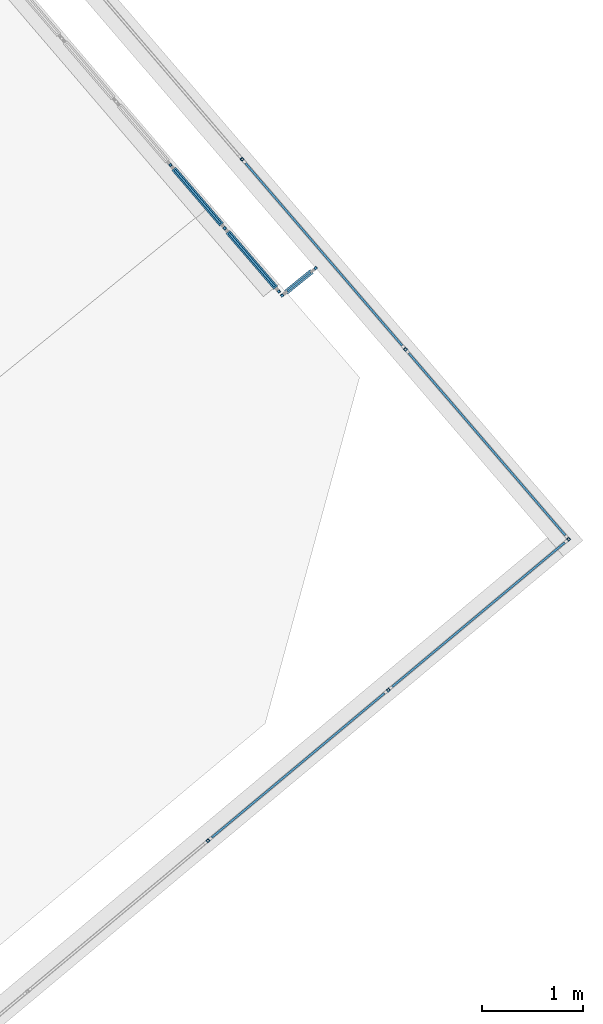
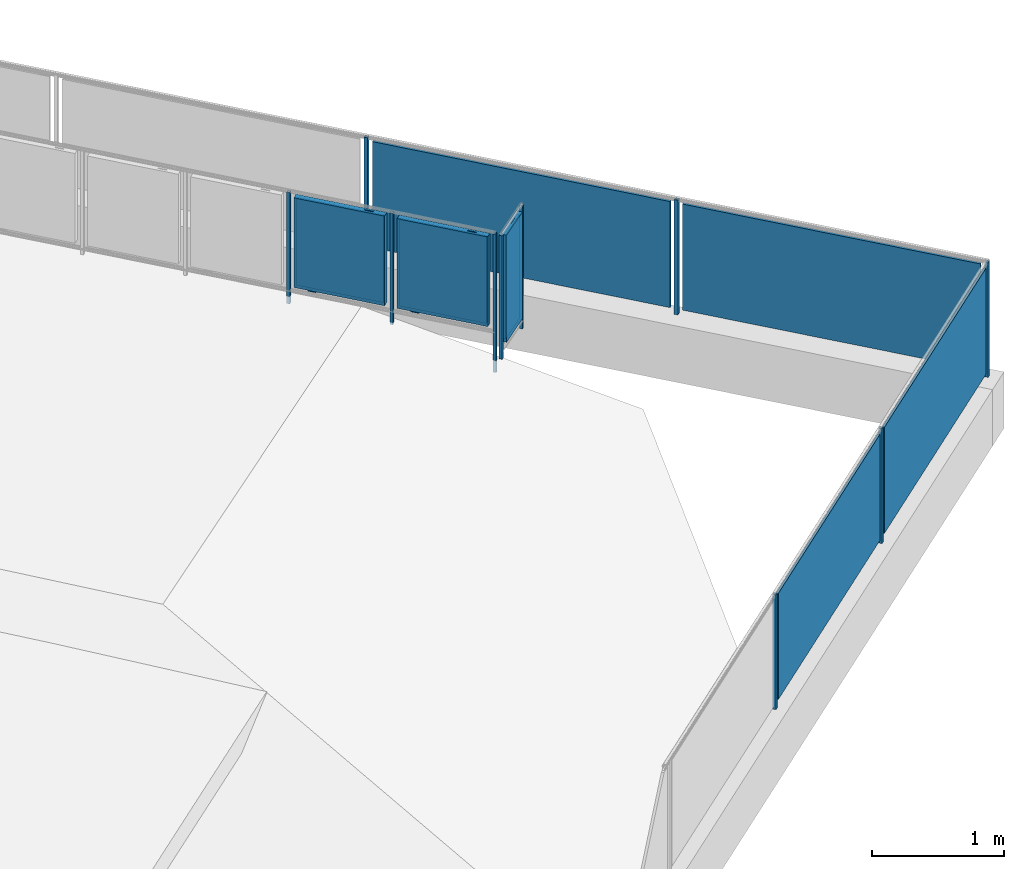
# One storey, part 50 of 67: 20 building element parts, 3 elements without a shape of their own.
"""IFC4 building model written with IfcOpenShell, lengths in metres."""

from ifc_helpers import new_model, entity, si_unit, converted_unit, derived_unit, direction, frame, origin_with_axes, place, context, subcontext, project, spatial, polygons, material, type_object, element, aggregate, save


model = new_model("IFC4")

# Units and contexts
model_context = context("Model", 3, precision=1e-05, world=origin_with_axes(), true_north=direction((0.0, 1.0)))
body_context = subcontext(model_context, "Body", "Model", "MODEL_VIEW")
ifc_project = project(units=[si_unit("LENGTHUNIT", "METRE"), si_unit("AREAUNIT", "SQUARE_METRE"), si_unit("VOLUMEUNIT", "CUBIC_METRE"), converted_unit("PLANEANGLEUNIT", "DEGREE", entity("IfcPlaneAngleMeasure", 0.0174532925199), si_unit("PLANEANGLEUNIT", "RADIAN"), dimensions=[0, 0, 0, 0, 0, 0, 0]), converted_unit("TIMEUNIT", "Year", entity("IfcTimeMeasure", 31556926.0), si_unit("TIMEUNIT", "SECOND"), dimensions=[0, 0, 1, 0, 0, 0, 0]), si_unit("MASSUNIT", "GRAM", prefix="KILO"), si_unit("THERMODYNAMICTEMPERATUREUNIT", "DEGREE_CELSIUS"), si_unit("LUMINOUSINTENSITYUNIT", "LUMEN"), si_unit("ENERGYUNIT", "JOULE", prefix="MEGA"), derived_unit("THERMALCONDUCTANCEUNIT", [(si_unit("POWERUNIT", "WATT"), 1), (si_unit("LENGTHUNIT", "METRE"), -1), (si_unit("THERMODYNAMICTEMPERATUREUNIT", "KELVIN"), -1)]), derived_unit("SPECIFICHEATCAPACITYUNIT", [(si_unit("ENERGYUNIT", "JOULE"), 1), (si_unit("MASSUNIT", "GRAM", prefix="KILO"), -1), (si_unit("THERMODYNAMICTEMPERATUREUNIT", "KELVIN"), -1)]), derived_unit("MASSDENSITYUNIT", [(si_unit("MASSUNIT", "GRAM", prefix="KILO"), 1), (si_unit("VOLUMEUNIT", "CUBIC_METRE"), -1)])], contexts=[model_context])

# Site, building, storey
site_placement = place(None, frame((-0.00153261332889, -0.00661245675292, 0.0), z_axis=(0.0, 0.0, 1.0), x_axis=(1.0, 0.0, 0.0)))
site = spatial("IfcSite", under=ifc_project, at=site_placement, Name="Site", CompositionType="ELEMENT")
building_placement = place(site_placement, origin_with_axes())
building = spatial("IfcBuilding", under=site, at=building_placement, Name="Building", CompositionType="ELEMENT")
storey_placement = place(building_placement, frame((0.0, 0.0, -0.22), z_axis=(0.0, 0.0, 1.0), x_axis=(1.0, 0.0, 0.0)))
storey = spatial("IfcBuildingStorey", under=building, at=storey_placement, Name="EG", CompositionType="ELEMENT", Elevation=-0.22)

# Railing, building element parts
railing_type = type_object("IfcRailingType", Name="Geländerart", PredefinedType="NOTDEFINED")
railing_1_placement = place(storey_placement, frame((-12.1608341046, 23.557810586, 0.523948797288), z_axis=(0.0, 0.0, 1.0), x_axis=(1.0, 0.0, 0.0)))
railing_1 = element("IfcRailing", 1, at=railing_1_placement, inside=storey, type_object=railing_type, Name="Geländer - 001", PredefinedType="NOTDEFINED")
ifc_material_1 = material(Name="Aluminium")
building_element_part_1_placement = place(railing_1_placement, origin_with_axes())
building_element_part_1 = element("IfcBuildingElementPart", 2, at=building_element_part_1_placement, material=ifc_material_1, Name="Aluminium", PredefinedType="NOTDEFINED", context=body_context, shape_type="Tessellation", body=[
    polygons([(33.6878191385, -5.45077765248, 0.0), (33.6685809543, -5.42775826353, 0.0), (33.6685809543, -5.42775826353, 1.06), (33.6878191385, -5.45077765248, 1.06), (33.6647997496, -5.4700158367, 0.0), (33.6455615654, -5.44699644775, 0.0), (33.6807762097, -5.45014745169, 0.0), (33.6679507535, -5.43480119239, 0.0), (33.6526044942, -5.44762664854, 0.0), (33.6654299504, -5.46297290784, 0.0), (33.6455615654, -5.44699644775, 1.06), (33.6647997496, -5.4700158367, 1.06), (33.6807762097, -5.45014745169, 1.06), (33.6654299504, -5.46297290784, 1.06), (33.6526044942, -5.44762664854, 1.06), (33.6679507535, -5.43480119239, 1.06)], [[[1, 2, 3, 4]], [[1, 5, 6, 2], [7, 8, 9, 10]], [[2, 6, 11, 3]], [[4, 3, 11, 12], [13, 14, 15, 16]], [[5, 1, 4, 12]], [[6, 5, 12, 11]], [[8, 7, 13, 16]], [[9, 8, 16, 15]], [[10, 9, 15, 14]], [[7, 10, 14, 13]]], closed=True),
])
building_element_part_2_placement = place(railing_1_placement, origin_with_axes())
building_element_part_2 = element("IfcBuildingElementPart", 3, at=building_element_part_2_placement, material=ifc_material_1, Name="Aluminium", PredefinedType="NOTDEFINED", context=body_context, shape_type="Tessellation", body=[
    polygons([(30.1059957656, -8.44424450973, 0.0), (30.0867575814, -8.42122512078, 0.0), (30.0867575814, -8.42122512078, 1.06), (30.1059957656, -8.44424450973, 1.06), (30.0829763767, -8.46348269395, 0.0), (30.0637381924, -8.440463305, 0.0), (30.0989528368, -8.44361430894, 0.0), (30.0861273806, -8.42826804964, 0.0), (30.0707811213, -8.44109350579, 0.0), (30.0836065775, -8.45643976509, 0.0), (30.0637381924, -8.440463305, 1.06), (30.0829763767, -8.46348269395, 1.06), (30.0989528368, -8.44361430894, 1.06), (30.0836065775, -8.45643976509, 1.06), (30.0707811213, -8.44109350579, 1.06), (30.0861273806, -8.42826804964, 1.06)], [[[1, 2, 3, 4]], [[1, 5, 6, 2], [7, 8, 9, 10]], [[2, 6, 11, 3]], [[4, 3, 11, 12], [13, 14, 15, 16]], [[5, 1, 4, 12]], [[6, 5, 12, 11]], [[8, 7, 13, 16]], [[9, 8, 16, 15]], [[10, 9, 15, 14]], [[7, 10, 14, 13]]], closed=True),
])
ifc_material_2 = material(Name="Zaun")
building_element_part_3_placement = place(railing_1_placement, origin_with_axes())
building_element_part_3 = element("IfcBuildingElementPart", 4, at=building_element_part_3_placement, material=ifc_material_2, Name="Zaun", PredefinedType="NOTDEFINED", context=body_context, shape_type="Tessellation", body=[
    polygons([(31.8310002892, -6.97001098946, 0.05), (30.1168198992, -8.40261713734, 0.05), (30.1168198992, -8.40261713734, 1.03), (31.8310002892, -6.97001098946, 1.03), (30.1296453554, -8.41796339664, 0.05), (31.8438257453, -6.98535724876, 0.05), (30.1296453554, -8.41796339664, 1.03), (31.8438257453, -6.98535724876, 1.03)], [[[1, 2, 3, 4]], [[5, 2, 1, 6]], [[7, 3, 2, 5]], [[4, 3, 7, 8]], [[1, 4, 8, 6]], [[7, 5, 6, 8]]], closed=True),
])
building_element_part_4_placement = place(railing_1_placement, origin_with_axes())
building_element_part_4 = element("IfcBuildingElementPart", 5, at=building_element_part_4_placement, material=ifc_material_1, Name="Aluminium", PredefinedType="NOTDEFINED", context=body_context, shape_type="Tessellation", body=[
    polygons([(31.8969074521, -6.9475110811, 0.0), (31.8776692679, -6.92449169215, 0.0), (31.8776692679, -6.92449169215, 1.06), (31.8969074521, -6.9475110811, 1.06), (31.8738880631, -6.96674926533, 0.0), (31.8546498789, -6.94372987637, 0.0), (31.8898645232, -6.94688088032, 0.0), (31.8770390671, -6.93153462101, 0.0), (31.8616928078, -6.94436007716, 0.0), (31.8745182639, -6.95970633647, 0.0), (31.8546498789, -6.94372987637, 1.06), (31.8738880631, -6.96674926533, 1.06), (31.8898645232, -6.94688088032, 1.06), (31.8745182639, -6.95970633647, 1.06), (31.8616928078, -6.94436007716, 1.06), (31.8770390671, -6.93153462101, 1.06)], [[[1, 2, 3, 4]], [[1, 5, 6, 2], [7, 8, 9, 10]], [[2, 6, 11, 3]], [[4, 3, 11, 12], [13, 14, 15, 16]], [[5, 1, 4, 12]], [[6, 5, 12, 11]], [[8, 7, 13, 16]], [[9, 8, 16, 15]], [[10, 9, 15, 14]], [[7, 10, 14, 13]]], closed=True),
])
building_element_part_5_placement = place(railing_1_placement, origin_with_axes())
building_element_part_5 = element("IfcBuildingElementPart", 6, at=building_element_part_5_placement, material=ifc_material_2, Name="Zaun", PredefinedType="NOTDEFINED", context=body_context, shape_type="Tessellation", body=[
    polygons([(33.6219119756, -5.47327756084, 0.05), (31.9077315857, -6.90588370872, 0.05), (31.9077315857, -6.90588370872, 1.03), (33.6219119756, -5.47327756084, 1.03), (31.9205570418, -6.92122996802, 0.05), (33.6347374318, -5.48862382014, 0.05), (31.9205570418, -6.92122996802, 1.03), (33.6347374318, -5.48862382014, 1.03)], [[[1, 2, 3, 4]], [[5, 2, 1, 6]], [[7, 3, 2, 5]], [[4, 3, 7, 8]], [[1, 4, 8, 6]], [[7, 5, 6, 8]]], closed=True),
])
building_element_part_6_placement = place(railing_1_placement, origin_with_axes())
building_element_part_6 = element("IfcBuildingElementPart", 7, at=building_element_part_6_placement, material=ifc_material_2, Name="Zaun", PredefinedType="NOTDEFINED", context=body_context, shape_type="Tessellation", body=[
    polygons([(32.0706981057, -3.60677800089, 0.05), (33.6265203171, -5.41748054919, 0.05), (33.6265203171, -5.41748054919, 1.03), (32.0706981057, -3.60677800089, 1.03), (33.6416897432, -5.40444642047, 0.05), (32.0858675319, -3.59374387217, 0.05), (33.6416897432, -5.40444642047, 1.03), (32.0858675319, -3.59374387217, 1.03)], [[[1, 2, 3, 4]], [[5, 2, 1, 6]], [[7, 3, 2, 5]], [[4, 3, 7, 8]], [[1, 4, 8, 6]], [[7, 5, 6, 8]]], closed=True),
])
building_element_part_7_placement = place(railing_1_placement, origin_with_axes())
building_element_part_7 = element("IfcBuildingElementPart", 8, at=building_element_part_7_placement, material=ifc_material_1, Name="Aluminium", PredefinedType="NOTDEFINED", context=body_context, shape_type="Tessellation", body=[
    polygons([(32.0472989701, -3.54118470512, 0.0), (32.0245448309, -3.5607358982, 0.0), (32.0245448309, -3.5607358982, 1.06), (32.0472989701, -3.54118470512, 1.06), (32.0668501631, -3.56393884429, 0.0), (32.044096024, -3.58349003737, 0.0), (32.0467651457, -3.54823559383, 0.0), (32.0315957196, -3.56126972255, 0.0), (32.0446298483, -3.57643914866, 0.0), (32.0597992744, -3.56340501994, 0.0), (32.044096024, -3.58349003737, 1.06), (32.0668501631, -3.56393884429, 1.06), (32.0467651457, -3.54823559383, 1.06), (32.0597992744, -3.56340501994, 1.06), (32.0446298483, -3.57643914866, 1.06), (32.0315957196, -3.56126972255, 1.06)], [[[1, 2, 3, 4]], [[1, 5, 6, 2], [7, 8, 9, 10]], [[2, 6, 11, 3]], [[4, 3, 11, 12], [13, 14, 15, 16]], [[5, 1, 4, 12]], [[6, 5, 12, 11]], [[8, 7, 13, 16]], [[9, 8, 16, 15]], [[10, 9, 15, 14]], [[7, 10, 14, 13]]], closed=True),
])
building_element_part_8_placement = place(railing_1_placement, origin_with_axes())
building_element_part_8 = element("IfcBuildingElementPart", 9, at=building_element_part_8_placement, material=ifc_material_2, Name="Zaun", PredefinedType="NOTDEFINED", context=body_context, shape_type="Tessellation", body=[
    polygons([(30.4497052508, -1.72022832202, 0.05), (32.0055274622, -3.53093087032, 0.05), (32.0055274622, -3.53093087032, 1.03), (30.4497052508, -1.72022832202, 1.03), (32.0206968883, -3.5178967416, 0.05), (30.4648746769, -1.7071941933, 0.05), (32.0206968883, -3.5178967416, 1.03), (30.4648746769, -1.7071941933, 1.03)], [[[1, 2, 3, 4]], [[5, 2, 1, 6]], [[7, 3, 2, 5]], [[4, 3, 7, 8]], [[1, 4, 8, 6]], [[7, 5, 6, 8]]], closed=True),
])
building_element_part_9_placement = place(railing_1_placement, origin_with_axes())
building_element_part_9 = element("IfcBuildingElementPart", 10, at=building_element_part_9_placement, material=ifc_material_1, Name="Aluminium", PredefinedType="NOTDEFINED", context=body_context, shape_type="Tessellation", body=[
    polygons([(30.4263061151, -1.65463502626, 0.0), (30.403551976, -1.67418621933, 0.0), (30.403551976, -1.67418621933, 1.06), (30.4263061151, -1.65463502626, 1.06), (30.4458573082, -1.67738916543, 0.0), (30.423103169, -1.6969403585, 0.0), (30.4257722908, -1.66168591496, 0.0), (30.4106028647, -1.67472004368, 0.0), (30.4236369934, -1.68988946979, 0.0), (30.4388064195, -1.67685534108, 0.0), (30.423103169, -1.6969403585, 1.06), (30.4458573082, -1.67738916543, 1.06), (30.4257722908, -1.66168591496, 1.06), (30.4388064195, -1.67685534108, 1.06), (30.4236369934, -1.68988946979, 1.06), (30.4106028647, -1.67472004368, 1.06)], [[[1, 2, 3, 4]], [[1, 5, 6, 2], [7, 8, 9, 10]], [[2, 6, 11, 3]], [[4, 3, 11, 12], [13, 14, 15, 16]], [[5, 1, 4, 12]], [[6, 5, 12, 11]], [[8, 7, 13, 16]], [[9, 8, 16, 15]], [[10, 9, 15, 14]], [[7, 10, 14, 13]]], closed=True),
])
aggregate(railing_1, [building_element_part_1, building_element_part_2, building_element_part_3, building_element_part_4, building_element_part_5, building_element_part_6, building_element_part_7, building_element_part_8, building_element_part_9])

railing_2_placement = place(storey_placement, frame((12.7838928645, 21.1193756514, 0.38), z_axis=(0.0, 0.0, 1.0), x_axis=(1.0, 0.0, 0.0)))
railing_2 = element("IfcRailing", 11, at=railing_2_placement, inside=storey, type_object=railing_type, Name="Geländer - 001", PredefinedType="NOTDEFINED")
building_element_part_10_placement = place(railing_2_placement, origin_with_axes())
building_element_part_10 = element("IfcBuildingElementPart", 12, at=building_element_part_10_placement, material=ifc_material_1, Name="Aluminium", PredefinedType="NOTDEFINED", context=body_context, shape_type="Tessellation", body=[
    polygons([(5.84400037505, -0.568070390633, -0.3), (5.86297616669, -0.551794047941, -0.3), (5.86297616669, -0.551794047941, 0.98), (5.84400037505, -0.568070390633, 0.98), (5.82772403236, -0.549094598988, -0.3), (5.846699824, -0.532818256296, -0.3), (5.846699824, -0.532818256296, 0.98), (5.82772403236, -0.549094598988, 0.98)], [[[1, 2, 3, 4]], [[1, 5, 6, 2]], [[2, 6, 7, 3]], [[4, 3, 7, 8]], [[5, 1, 4, 8]], [[6, 5, 8, 7]]], closed=True),
])
building_element_part_11_placement = place(railing_2_placement, origin_with_axes())
building_element_part_11 = element("IfcBuildingElementPart", 13, at=building_element_part_11_placement, material=ifc_material_1, Name="Aluminium", PredefinedType="NOTDEFINED", context=body_context, shape_type="Tessellation", body=[
    polygons([(4.76659655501, 0.688022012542, -0.05), (4.78557234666, 0.704298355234, -0.05), (4.78557234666, 0.704298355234, 0.98), (4.76659655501, 0.688022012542, 0.98), (4.75032021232, 0.706997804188, -0.05), (4.76929600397, 0.72327414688, -0.05), (4.76929600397, 0.72327414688, 0.98), (4.75032021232, 0.706997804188, 0.98)], [[[1, 2, 3, 4]], [[1, 5, 6, 2]], [[2, 6, 7, 3]], [[4, 3, 7, 8]], [[5, 1, 4, 8]], [[6, 5, 8, 7]]], closed=True),
])
ifc_material_3 = material(Name="Profilit")
building_element_part_12_placement = place(railing_2_placement, origin_with_axes())
building_element_part_12 = element("IfcBuildingElementPart", 14, at=building_element_part_12_placement, material=ifc_material_3, Name="Profilit", PredefinedType="NOTDEFINED", context=body_context, shape_type="Tessellation", body=[
    polygons([(5.27192001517, 0.133449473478, 0.135), (4.81785508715, 0.66282155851, 0.135), (4.81785508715, 0.66282155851, 0.935), (5.27192001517, 0.133449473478, 0.935), (4.80267445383, 0.649800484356, 0.135), (5.25673938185, 0.120428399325, 0.135), (4.80267445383, 0.649800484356, 0.935), (5.25673938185, 0.120428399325, 0.935)], [[[1, 2, 3, 4]], [[5, 2, 1, 6]], [[7, 3, 2, 5]], [[4, 3, 7, 8]], [[1, 4, 8, 6]], [[7, 5, 6, 8]]], closed=True),
])
building_element_part_13_placement = place(railing_2_placement, origin_with_axes())
building_element_part_13 = element("IfcBuildingElementPart", 15, at=building_element_part_13_placement, material=ifc_material_1, Name="Aluminium", PredefinedType="NOTDEFINED", context=body_context, shape_type="Tessellation", body=[
    polygons([(4.86750191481, 0.593420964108, 0.12), (4.91307567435, 0.5402887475, 0.12), (4.91307567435, 0.5402887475, 0.095), (4.86750191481, 0.593420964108, 0.095), (4.86370675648, 0.590165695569, 0.12), (4.90928051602, 0.537033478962, 0.12), (4.90928051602, 0.537033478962, 0.095), (4.86370675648, 0.590165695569, 0.095)], [[[1, 2, 3, 4]], [[5, 6, 2, 1]], [[2, 6, 7, 3]], [[4, 3, 7, 8]], [[1, 4, 8, 5]], [[8, 7, 6, 5]]], closed=True),
    polygons([(5.21088771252, 0.193084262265, 0.95), (5.16531395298, 0.246216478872, 0.95), (5.16531395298, 0.246216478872, 0.955), (5.21088771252, 0.193084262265, 0.955), (5.20709255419, 0.189828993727, 0.95), (5.16151879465, 0.242961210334, 0.95), (5.16151879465, 0.242961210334, 0.955), (5.20709255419, 0.189828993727, 0.955)], [[[1, 2, 3, 4]], [[5, 6, 2, 1]], [[2, 6, 7, 3]], [[4, 3, 7, 8]], [[1, 4, 8, 5]], [[8, 7, 6, 5]]], closed=True),
    polygons([(4.78152317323, 0.651420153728, 0.12), (4.81947475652, 0.683972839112, 0.12), (5.29307129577, 0.131829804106, 0.12), (5.25511971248, 0.0992771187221, 0.12), (4.79454424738, 0.636239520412, 0.14), (4.80592972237, 0.646005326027, 0.14), (4.80267445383, 0.649800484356, 0.135), (4.81785508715, 0.66282155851, 0.135), (4.82111035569, 0.659026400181, 0.14), (4.83249583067, 0.668792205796, 0.14), (5.28005022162, 0.147010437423, 0.14), (5.28005022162, 0.147010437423, 0.93), (4.83249583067, 0.668792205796, 0.93), (4.83249583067, 0.668792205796, 0.14), (4.81947475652, 0.683972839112, 0.12), (4.81947475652, 0.683972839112, 0.95), (5.29307129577, 0.131829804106, 0.95), (5.25511971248, 0.0992771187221, 0.95), (4.78152317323, 0.651420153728, 0.95), (4.78152317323, 0.651420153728, 0.12), (4.79454424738, 0.636239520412, 0.14), (4.79454424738, 0.636239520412, 0.93), (5.24209863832, 0.114457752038, 0.93), (5.24209863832, 0.114457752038, 0.14), (5.25348411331, 0.124223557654, 0.14), (5.25348411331, 0.124223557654, 0.93), (4.80592972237, 0.646005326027, 0.93), (4.80592972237, 0.646005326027, 0.14), (4.80267445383, 0.649800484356, 0.135), (4.80267445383, 0.649800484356, 0.935), (5.25673938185, 0.120428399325, 0.935), (5.25673938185, 0.120428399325, 0.135), (5.27192001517, 0.133449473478, 0.135), (5.27192001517, 0.133449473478, 0.935), (4.81785508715, 0.66282155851, 0.935), (4.81785508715, 0.66282155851, 0.135), (4.82111035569, 0.659026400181, 0.14), (4.82111035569, 0.659026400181, 0.93), (5.26866474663, 0.137244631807, 0.93), (5.26866474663, 0.137244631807, 0.14)], [[[1, 2, 3, 4]], [[1, 5, 6, 7, 8, 9, 10, 2]], [[2, 10, 11, 12, 13, 14, 15, 16, 17, 3]], [[4, 3, 17, 18]], [[5, 1, 4, 18, 19, 20, 21, 22, 23, 24]], [[6, 5, 24, 25]], [[7, 6, 25, 26, 27, 28, 29, 30, 31, 32]], [[8, 7, 32, 33]], [[9, 8, 33, 34, 35, 36, 37, 38, 39, 40]], [[10, 9, 40, 11]], [[11, 40, 39, 12]], [[12, 39, 38, 13]], [[13, 38, 37, 14]], [[20, 15, 14, 37, 36, 29, 28, 21]], [[19, 16, 15, 20]], [[18, 17, 16, 19]], [[27, 22, 21, 28]], [[26, 23, 22, 27]], [[25, 24, 23, 26]], [[35, 30, 29, 36]], [[34, 31, 30, 35]], [[33, 32, 31, 34]]], closed=True),
])
building_element_part_14_placement = place(railing_2_placement, origin_with_axes())
building_element_part_14 = element("IfcBuildingElementPart", 16, at=building_element_part_14_placement, material=ifc_material_1, Name="Aluminium", PredefinedType="NOTDEFINED", context=body_context, shape_type="Tessellation", body=[
    polygons([(5.30529846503, 0.0599758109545, -0.05), (5.32427425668, 0.0762521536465, -0.05), (5.32427425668, 0.0762521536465, 0.98), (5.30529846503, 0.0599758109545, 0.98), (5.28902212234, 0.0789516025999, -0.05), (5.30799791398, 0.095227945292, -0.05), (5.30799791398, 0.095227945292, 0.98), (5.28902212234, 0.0789516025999, 0.98)], [[[1, 2, 3, 4]], [[1, 5, 6, 2]], [[2, 6, 7, 3]], [[4, 3, 7, 8]], [[5, 1, 4, 8]], [[6, 5, 8, 7]]], closed=True),
])
building_element_part_15_placement = place(railing_2_placement, origin_with_axes())
building_element_part_15 = element("IfcBuildingElementPart", 17, at=building_element_part_15_placement, material=ifc_material_3, Name="Profilit", PredefinedType="NOTDEFINED", context=body_context, shape_type="Tessellation", body=[
    polygons([(5.81062192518, -0.49459672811, 0.135), (5.35655699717, 0.0347753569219, 0.135), (5.35655699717, 0.0347753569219, 0.935), (5.81062192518, -0.49459672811, 0.935), (5.34137636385, 0.0217542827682, 0.135), (5.79544129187, -0.507617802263, 0.135), (5.34137636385, 0.0217542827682, 0.935), (5.79544129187, -0.507617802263, 0.935)], [[[1, 2, 3, 4]], [[5, 2, 1, 6]], [[7, 3, 2, 5]], [[4, 3, 7, 8]], [[1, 4, 8, 6]], [[7, 5, 6, 8]]], closed=True),
])
building_element_part_16_placement = place(railing_2_placement, origin_with_axes())
building_element_part_16 = element("IfcBuildingElementPart", 18, at=building_element_part_16_placement, material=ifc_material_1, Name="Aluminium", PredefinedType="NOTDEFINED", context=body_context, shape_type="Tessellation", body=[
    polygons([(5.40620382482, -0.0346252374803, 0.12), (5.45177758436, -0.0877574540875, 0.12), (5.45177758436, -0.0877574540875, 0.095), (5.40620382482, -0.0346252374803, 0.095), (5.4024086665, -0.0378805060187, 0.12), (5.44798242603, -0.0910127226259, 0.12), (5.44798242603, -0.0910127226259, 0.095), (5.4024086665, -0.0378805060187, 0.095)], [[[1, 2, 3, 4]], [[5, 6, 2, 1]], [[2, 6, 7, 3]], [[4, 3, 7, 8]], [[1, 4, 8, 5]], [[8, 7, 6, 5]]], closed=True),
    polygons([(5.74958962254, -0.434961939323, 0.95), (5.704015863, -0.381829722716, 0.95), (5.704015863, -0.381829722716, 0.955), (5.74958962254, -0.434961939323, 0.955), (5.74579446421, -0.438217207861, 0.95), (5.70022070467, -0.385084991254, 0.95), (5.70022070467, -0.385084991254, 0.955), (5.74579446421, -0.438217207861, 0.955)], [[[1, 2, 3, 4]], [[5, 6, 2, 1]], [[2, 6, 7, 3]], [[4, 3, 7, 8]], [[1, 4, 8, 5]], [[8, 7, 6, 5]]], closed=True),
    polygons([(5.32022508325, 0.0233739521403, 0.12), (5.35817666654, 0.0559266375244, 0.12), (5.83177320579, -0.496216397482, 0.12), (5.79382162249, -0.528769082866, 0.12), (5.3332461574, 0.00819331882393, 0.14), (5.34463163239, 0.0179591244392, 0.14), (5.34137636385, 0.0217542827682, 0.135), (5.35655699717, 0.0347753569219, 0.135), (5.3598122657, 0.0309801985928, 0.14), (5.37119774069, 0.040746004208, 0.14), (5.81875213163, -0.481035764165, 0.14), (5.81875213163, -0.481035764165, 0.93), (5.37119774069, 0.040746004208, 0.93), (5.37119774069, 0.040746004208, 0.14), (5.35817666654, 0.0559266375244, 0.12), (5.35817666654, 0.0559266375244, 0.95), (5.83177320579, -0.496216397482, 0.95), (5.79382162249, -0.528769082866, 0.95), (5.32022508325, 0.0233739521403, 0.95), (5.32022508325, 0.0233739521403, 0.12), (5.3332461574, 0.00819331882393, 0.14), (5.3332461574, 0.00819331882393, 0.93), (5.78080054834, -0.51358844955, 0.93), (5.78080054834, -0.51358844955, 0.14), (5.79218602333, -0.503822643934, 0.14), (5.79218602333, -0.503822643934, 0.93), (5.34463163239, 0.0179591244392, 0.93), (5.34463163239, 0.0179591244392, 0.14), (5.34137636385, 0.0217542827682, 0.135), (5.34137636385, 0.0217542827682, 0.935), (5.79544129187, -0.507617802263, 0.935), (5.79544129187, -0.507617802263, 0.135), (5.81062192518, -0.49459672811, 0.135), (5.81062192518, -0.49459672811, 0.935), (5.35655699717, 0.0347753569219, 0.935), (5.35655699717, 0.0347753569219, 0.135), (5.3598122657, 0.0309801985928, 0.14), (5.3598122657, 0.0309801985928, 0.93), (5.80736665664, -0.490801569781, 0.93), (5.80736665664, -0.490801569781, 0.14)], [[[1, 2, 3, 4]], [[1, 5, 6, 7, 8, 9, 10, 2]], [[2, 10, 11, 12, 13, 14, 15, 16, 17, 3]], [[4, 3, 17, 18]], [[5, 1, 4, 18, 19, 20, 21, 22, 23, 24]], [[6, 5, 24, 25]], [[7, 6, 25, 26, 27, 28, 29, 30, 31, 32]], [[8, 7, 32, 33]], [[9, 8, 33, 34, 35, 36, 37, 38, 39, 40]], [[10, 9, 40, 11]], [[11, 40, 39, 12]], [[12, 39, 38, 13]], [[13, 38, 37, 14]], [[20, 15, 14, 37, 36, 29, 28, 21]], [[19, 16, 15, 20]], [[18, 17, 16, 19]], [[27, 22, 21, 28]], [[26, 23, 22, 27]], [[25, 24, 23, 26]], [[35, 30, 29, 36]], [[34, 31, 30, 35]], [[33, 32, 31, 34]]], closed=True),
])
aggregate(railing_2, [building_element_part_10, building_element_part_11, building_element_part_12, building_element_part_13, building_element_part_14, building_element_part_15, building_element_part_16])

railing_3_placement = place(storey_placement, frame((18.629242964, 20.5689313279, 0.215679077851), z_axis=(0.0, 0.0, 1.0), x_axis=(1.0, 0.0, 0.0)))
railing_3 = element("IfcRailing", 19, at=railing_3_placement, inside=storey, type_object=railing_type, Name="Geländer - 001", PredefinedType="NOTDEFINED")
building_element_part_17_placement = place(railing_3_placement, origin_with_axes())
building_element_part_17 = element("IfcBuildingElementPart", 20, at=building_element_part_17_placement, material=ifc_material_1, Name="Aluminium", PredefinedType="NOTDEFINED", context=body_context, shape_type="Tessellation", body=[
    polygons([(0.0490651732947, -0.0406830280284, 0.0), (0.0333234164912, -0.0212614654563, 0.0), (0.0333234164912, -0.0212614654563, 1.14), (0.0490651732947, -0.0406830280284, 1.14), (0.0296436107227, -0.0564247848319, 0.0), (0.0139018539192, -0.0370032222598, 0.0), (0.0139018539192, -0.0370032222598, 1.14), (0.0296436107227, -0.0564247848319, 1.14)], [[[1, 2, 3, 4]], [[1, 5, 6, 2]], [[2, 6, 7, 3]], [[4, 3, 7, 8]], [[5, 1, 4, 8]], [[6, 5, 8, 7]]], closed=True),
])
building_element_part_18_placement = place(railing_3_placement, origin_with_axes())
building_element_part_18 = element("IfcBuildingElementPart", 21, at=building_element_part_18_placement, material=ifc_material_1, Name="Aluminium", PredefinedType="NOTDEFINED", context=body_context, shape_type="Tessellation", body=[
    polygons([(0.382185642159, 0.229321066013, 0.0), (0.366443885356, 0.248742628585, 0.0), (0.366443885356, 0.248742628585, 1.14), (0.382185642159, 0.229321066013, 1.14), (0.362764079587, 0.213579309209, 0.0), (0.347022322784, 0.233000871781, 0.0), (0.347022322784, 0.233000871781, 1.14), (0.362764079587, 0.213579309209, 1.14)], [[[1, 2, 3, 4]], [[1, 5, 6, 2]], [[2, 6, 7, 3]], [[4, 3, 7, 8]], [[5, 1, 4, 8]], [[6, 5, 8, 7]]], closed=True),
])
building_element_part_19_placement = place(railing_3_placement, origin_with_axes())
building_element_part_19 = element("IfcBuildingElementPart", 22, at=building_element_part_19_placement, material=ifc_material_3, Name="Profilit", PredefinedType="NOTDEFINED", context=body_context, shape_type="Tessellation", body=[
    polygons([(0.307811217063, 0.198001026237, 0.135), (0.0756828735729, 0.00985406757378, 0.135), (0.0756828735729, 0.00985406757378, 1.095), (0.307811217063, 0.198001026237, 1.095), (0.0882762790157, -0.00568318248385, 0.135), (0.320404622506, 0.182463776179, 0.135), (0.0882762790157, -0.00568318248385, 1.095), (0.320404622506, 0.182463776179, 1.095)], [[[1, 2, 3, 4]], [[5, 2, 1, 6]], [[7, 3, 2, 5]], [[4, 3, 7, 8]], [[1, 4, 8, 6]], [[7, 5, 6, 8]]], closed=True),
])
building_element_part_20_placement = place(railing_3_placement, origin_with_axes())
building_element_part_20 = element("IfcBuildingElementPart", 23, at=building_element_part_20_placement, material=ifc_material_1, Name="Aluminium", PredefinedType="NOTDEFINED", context=body_context, shape_type="Tessellation", body=[
    polygons([(0.146438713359, 0.057549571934, 0.12), (0.200819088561, 0.101626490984, 0.12), (0.200819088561, 0.101626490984, 0.095), (0.146438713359, 0.057549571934, 0.095), (0.14958706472, 0.0536652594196, 0.12), (0.203967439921, 0.0977421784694, 0.12), (0.203967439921, 0.0977421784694, 0.095), (0.14958706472, 0.0536652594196, 0.095)], [[[1, 2, 3, 4]], [[5, 6, 2, 1]], [[2, 6, 7, 3]], [[4, 3, 7, 8]], [[1, 4, 8, 5]], [[8, 7, 6, 5]]], closed=True),
    polygons([(0.246500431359, 0.138652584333, 1.11), (0.192120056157, 0.0945756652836, 1.11), (0.192120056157, 0.0945756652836, 1.115), (0.246500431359, 0.138652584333, 1.115), (0.24964878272, 0.134768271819, 1.11), (0.195268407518, 0.0906913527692, 1.11), (0.195268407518, 0.0906913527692, 1.115), (0.24964878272, 0.134768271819, 1.115)], [[[1, 2, 3, 4]], [[5, 6, 2, 1]], [[2, 6, 7, 3]], [[4, 3, 7, 8]], [[1, 4, 8, 5]], [[8, 7, 6, 5]]], closed=True),
    polygons([(0.0860683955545, -0.0267811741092, 0.12), (0.0545848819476, 0.0120619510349, 0.12), (0.310019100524, 0.219099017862, 0.12), (0.341502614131, 0.180255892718, 0.12), (0.101605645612, -0.0141877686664, 0.14), (0.0921605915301, -0.00253483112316, 0.14), (0.0882762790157, -0.00568318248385, 0.135), (0.0756828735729, 0.00985406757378, 0.135), (0.0795671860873, 0.0130024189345, 0.14), (0.0701221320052, 0.0246553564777, 0.14), (0.294481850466, 0.206505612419, 0.14), (0.294481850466, 0.206505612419, 1.09), (0.0701221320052, 0.0246553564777, 1.09), (0.0701221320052, 0.0246553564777, 0.14), (0.0545848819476, 0.0120619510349, 0.12), (0.0545848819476, 0.0120619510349, 1.11), (0.310019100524, 0.219099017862, 1.11), (0.341502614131, 0.180255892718, 1.11), (0.0860683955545, -0.0267811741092, 1.11), (0.0860683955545, -0.0267811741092, 0.12), (0.101605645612, -0.0141877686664, 0.14), (0.101605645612, -0.0141877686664, 1.09), (0.325965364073, 0.167662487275, 1.09), (0.325965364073, 0.167662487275, 0.14), (0.316520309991, 0.179315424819, 0.14), (0.316520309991, 0.179315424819, 1.09), (0.0921605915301, -0.00253483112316, 1.09), (0.0921605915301, -0.00253483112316, 0.14), (0.0882762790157, -0.00568318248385, 0.135), (0.0882762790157, -0.00568318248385, 1.095), (0.320404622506, 0.182463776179, 1.095), (0.320404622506, 0.182463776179, 0.135), (0.307811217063, 0.198001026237, 0.135), (0.307811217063, 0.198001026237, 1.095), (0.0756828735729, 0.00985406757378, 1.095), (0.0756828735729, 0.00985406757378, 0.135), (0.0795671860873, 0.0130024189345, 0.14), (0.0795671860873, 0.0130024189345, 1.09), (0.303926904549, 0.194852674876, 1.09), (0.303926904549, 0.194852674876, 0.14)], [[[1, 2, 3, 4]], [[1, 5, 6, 7, 8, 9, 10, 2]], [[2, 10, 11, 12, 13, 14, 15, 16, 17, 3]], [[4, 3, 17, 18]], [[5, 1, 4, 18, 19, 20, 21, 22, 23, 24]], [[6, 5, 24, 25]], [[7, 6, 25, 26, 27, 28, 29, 30, 31, 32]], [[8, 7, 32, 33]], [[9, 8, 33, 34, 35, 36, 37, 38, 39, 40]], [[10, 9, 40, 11]], [[11, 40, 39, 12]], [[12, 39, 38, 13]], [[13, 38, 37, 14]], [[20, 15, 14, 37, 36, 29, 28, 21]], [[19, 16, 15, 20]], [[18, 17, 16, 19]], [[27, 22, 21, 28]], [[26, 23, 22, 27]], [[25, 24, 23, 26]], [[35, 30, 29, 36]], [[34, 31, 30, 35]], [[33, 32, 31, 34]]], closed=True),
])
aggregate(railing_3, [building_element_part_17, building_element_part_18, building_element_part_19, building_element_part_20])

save(model, "model.ifc")
